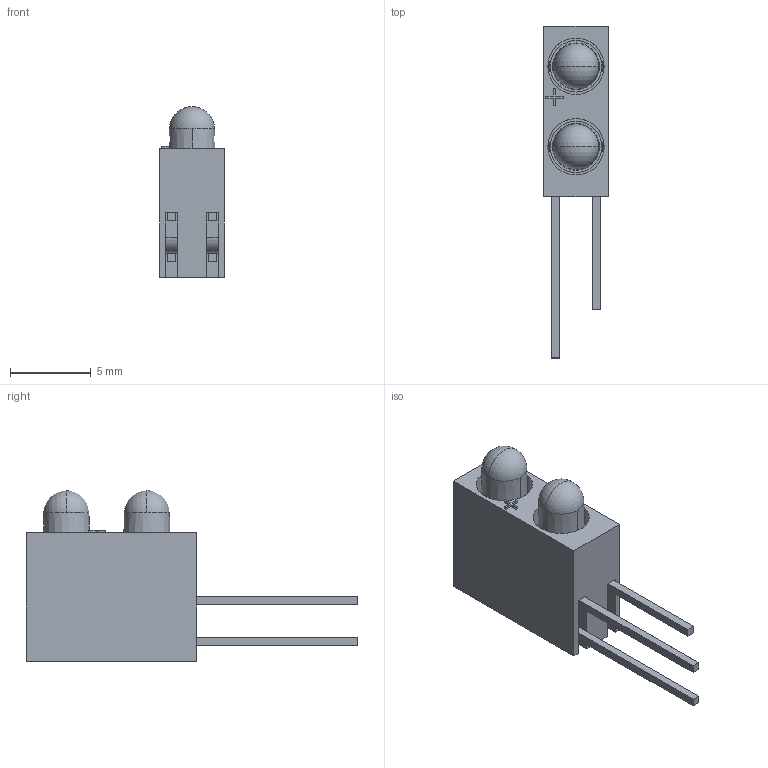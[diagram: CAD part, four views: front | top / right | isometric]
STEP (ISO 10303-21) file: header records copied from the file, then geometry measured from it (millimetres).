
FILE_DESCRIPTION (( 'STEP AP203' ), '1' );
FILE_NAME ('109.STEP', '2019-04-08T08:52:16', ( '' ), ( '' ), 'SwSTEP 2.0', 'SolidWorks 2019', '' );
FILE_SCHEMA (( 'CONFIG_CONTROL_DESIGN' ));
Length unit declared in the file: millimetre
Products named in the file (4): LED_330_Shorter Bent Pins; COM3573; LED_330_109 CONFIG; 109
Assembly tree (3 placements, depth 2):
  109
    LED_330_109 CONFIG
    COM3573
    LED_330_Shorter Bent Pins
Bounding box: 4 x 20.6 x 10.6 mm (x, y, z)
Volume: 326.9 mm3; surface area: 756.4 mm2
Topology: 3 solids, 3 shells, 229 faces, 618 edges, 408 vertices
Faces by surface type: plane 201, cylinder 20, cone 4, sphere 4
Entity records: 7510 total; most frequent: CARTESIAN_POINT 1261, ORIENTED_EDGE 1236, DIRECTION 1152, EDGE_CURVE 618, VECTOR 554, LINE 554, VERTEX_POINT 408, AXIS2_PLACEMENT_3D 299
